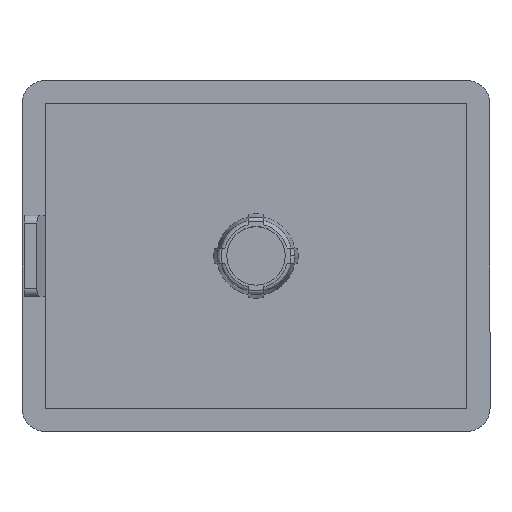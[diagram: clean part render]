
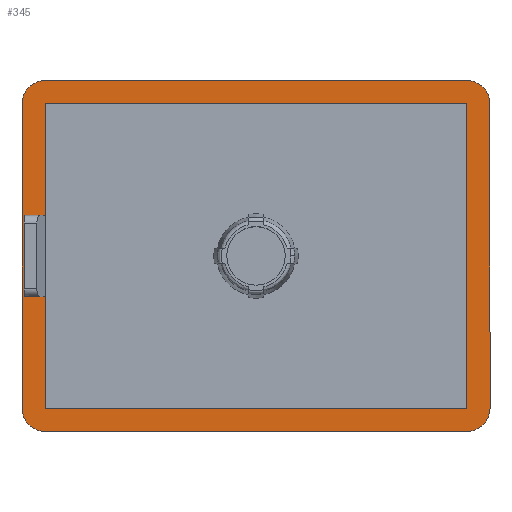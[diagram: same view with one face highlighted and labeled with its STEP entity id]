
A CAD part, top view. The second image highlights one B-rep face of the part: STEP entity #345.
In plain terms, the highlighted planar face has unit normal (0, 0, 1).
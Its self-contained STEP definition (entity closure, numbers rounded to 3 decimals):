
#12 = CARTESIAN_POINT ( 'NONE',  ( -27., -19.5, 4. ) ) ;
#20 = VERTEX_POINT ( 'NONE', #2044 ) ;
#29 = DIRECTION ( 'NONE',  ( 1., 0., 0. ) ) ;
#72 = CARTESIAN_POINT ( 'NONE',  ( -27., 19.5, 4. ) ) ;
#84 = CARTESIAN_POINT ( 'NONE',  ( -29.7, 5.2, 4. ) ) ;
#88 = ORIENTED_EDGE ( 'NONE', *, *, #2234, .T. ) ;
#98 = VERTEX_POINT ( 'NONE', #942 ) ;
#99 = CARTESIAN_POINT ( 'NONE',  ( 30., 19.5, 4. ) ) ;
#135 = CARTESIAN_POINT ( 'NONE',  ( -27., 5.2, 4. ) ) ;
#139 = CARTESIAN_POINT ( 'NONE',  ( 30., 19.5, 4. ) ) ;
#201 = CIRCLE ( 'NONE', #1364, 3. ) ;
#209 = CARTESIAN_POINT ( 'NONE',  ( -27., 22.5, 4. ) ) ;
#239 = DIRECTION ( 'NONE',  ( 0., 0., 1. ) ) ;
#248 = DIRECTION ( 'NONE',  ( -1., 0., 0. ) ) ;
#250 = CARTESIAN_POINT ( 'NONE',  ( -27., -19.5, 4. ) ) ;
#269 = EDGE_CURVE ( 'NONE', #1723, #878, #1244, .T. ) ;
#287 = LINE ( 'NONE', #621, #977 ) ;
#308 = FACE_OUTER_BOUND ( 'NONE', #1076, .T. ) ;
#313 = VERTEX_POINT ( 'NONE', #1977 ) ;
#345 = ADVANCED_FACE ( 'NONE', ( #1818, #308 ), #2162, .T. ) ;
#350 = ORIENTED_EDGE ( 'NONE', *, *, #825, .T. ) ;
#358 = VECTOR ( 'NONE', #696, 1000. ) ;
#411 = EDGE_CURVE ( 'NONE', #1466, #1446, #2041, .T. ) ;
#451 = LINE ( 'NONE', #1235, #1563 ) ;
#479 = LINE ( 'NONE', #1759, #1330 ) ;
#494 = LINE ( 'NONE', #139, #2285 ) ;
#519 = EDGE_CURVE ( 'NONE', #1025, #313, #1333, .T. ) ;
#565 = CARTESIAN_POINT ( 'NONE',  ( 30., -5.2, 4. ) ) ;
#583 = VERTEX_POINT ( 'NONE', #2271 ) ;
#595 = EDGE_CURVE ( 'NONE', #598, #1025, #1037, .T. ) ;
#598 = VERTEX_POINT ( 'NONE', #1440 ) ;
#621 = CARTESIAN_POINT ( 'NONE',  ( -29.7, 22.5, 4. ) ) ;
#623 = EDGE_CURVE ( 'NONE', #598, #1446, #712, .T. ) ;
#696 = DIRECTION ( 'NONE',  ( 0., 1., 0. ) ) ;
#712 = CIRCLE ( 'NONE', #1838, 3. ) ;
#722 = DIRECTION ( 'NONE',  ( 0., 0., 1. ) ) ;
#731 = VERTEX_POINT ( 'NONE', #12 ) ;
#763 = LINE ( 'NONE', #565, #2289 ) ;
#779 = ORIENTED_EDGE ( 'NONE', *, *, #1004, .T. ) ;
#786 = DIRECTION ( 'NONE',  ( 0., 0., 1. ) ) ;
#810 = LINE ( 'NONE', #2057, #1447 ) ;
#823 = EDGE_CURVE ( 'NONE', #20, #1466, #2144, .T. ) ;
#825 = EDGE_CURVE ( 'NONE', #583, #1854, #201, .T. ) ;
#847 = CARTESIAN_POINT ( 'NONE',  ( 27., -22.5, 4. ) ) ;
#878 = VERTEX_POINT ( 'NONE', #2235 ) ;
#909 = CARTESIAN_POINT ( 'NONE',  ( 30., 22.5, 4. ) ) ;
#942 = CARTESIAN_POINT ( 'NONE',  ( -27., -5.2, 4. ) ) ;
#950 = CARTESIAN_POINT ( 'NONE',  ( -30., 22.5, 4. ) ) ;
#953 = LINE ( 'NONE', #966, #1041 ) ;
#966 = CARTESIAN_POINT ( 'NONE',  ( 30., 5.2, 4. ) ) ;
#973 = ORIENTED_EDGE ( 'NONE', *, *, #519, .T. ) ;
#977 = VECTOR ( 'NONE', #1370, 1000. ) ;
#990 = CARTESIAN_POINT ( 'NONE',  ( -27., 19.5, 4. ) ) ;
#1004 = EDGE_CURVE ( 'NONE', #1473, #1723, #494, .T. ) ;
#1008 = VERTEX_POINT ( 'NONE', #84 ) ;
#1025 = VERTEX_POINT ( 'NONE', #99 ) ;
#1037 = LINE ( 'NONE', #1226, #358 ) ;
#1041 = VECTOR ( 'NONE', #29, 1000. ) ;
#1076 = EDGE_LOOP ( 'NONE', ( #1755, #973, #1696, #350, #88, #1344, #1367, #1188 ) ) ;
#1107 = ORIENTED_EDGE ( 'NONE', *, *, #1341, .T. ) ;
#1182 = EDGE_CURVE ( 'NONE', #98, #2003, #763, .T. ) ;
#1188 = ORIENTED_EDGE ( 'NONE', *, *, #623, .F. ) ;
#1205 = DIRECTION ( 'NONE',  ( -1., 0., 0. ) ) ;
#1226 = CARTESIAN_POINT ( 'NONE',  ( 30., 22.5, 4. ) ) ;
#1235 = CARTESIAN_POINT ( 'NONE',  ( -30., 22.5, 4. ) ) ;
#1244 = LINE ( 'NONE', #2008, #1814 ) ;
#1248 = EDGE_CURVE ( 'NONE', #878, #731, #810, .T. ) ;
#1286 = EDGE_CURVE ( 'NONE', #731, #98, #479, .T. ) ;
#1307 = DIRECTION ( 'NONE',  ( 1., 0., 0. ) ) ;
#1312 = VECTOR ( 'NONE', #2052, 1000. ) ;
#1328 = CARTESIAN_POINT ( 'NONE',  ( -30., -22.5, 4. ) ) ;
#1329 = LINE ( 'NONE', #950, #2010 ) ;
#1330 = VECTOR ( 'NONE', #1943, 1000. ) ;
#1333 = CIRCLE ( 'NONE', #2290, 3. ) ;
#1339 = LINE ( 'NONE', #209, #1312 ) ;
#1341 = EDGE_CURVE ( 'NONE', #2003, #1008, #287, .T. ) ;
#1344 = ORIENTED_EDGE ( 'NONE', *, *, #823, .T. ) ;
#1348 = DIRECTION ( 'NONE',  ( -1., 0., 0. ) ) ;
#1352 = CARTESIAN_POINT ( 'NONE',  ( -30., 19.5, 4. ) ) ;
#1364 = AXIS2_PLACEMENT_3D ( 'NONE', #72, #239, #1373 ) ;
#1367 = ORIENTED_EDGE ( 'NONE', *, *, #411, .T. ) ;
#1370 = DIRECTION ( 'NONE',  ( 0., 1., 0. ) ) ;
#1373 = DIRECTION ( 'NONE',  ( -1., 0., 0. ) ) ;
#1392 = ORIENTED_EDGE ( 'NONE', *, *, #1286, .T. ) ;
#1428 = DIRECTION ( 'NONE',  ( 0., 0., -1. ) ) ;
#1440 = CARTESIAN_POINT ( 'NONE',  ( 30., -19.5, 4. ) ) ;
#1446 = VERTEX_POINT ( 'NONE', #847 ) ;
#1447 = VECTOR ( 'NONE', #1718, 1000. ) ;
#1463 = DIRECTION ( 'NONE',  ( 1., 0., 0. ) ) ;
#1466 = VERTEX_POINT ( 'NONE', #2296 ) ;
#1473 = VERTEX_POINT ( 'NONE', #990 ) ;
#1501 = ORIENTED_EDGE ( 'NONE', *, *, #1840, .T. ) ;
#1517 = EDGE_CURVE ( 'NONE', #313, #583, #451, .T. ) ;
#1525 = AXIS2_PLACEMENT_3D ( 'NONE', #250, #2245, #1720 ) ;
#1563 = VECTOR ( 'NONE', #1205, 1000. ) ;
#1573 = ORIENTED_EDGE ( 'NONE', *, *, #2132, .T. ) ;
#1603 = VERTEX_POINT ( 'NONE', #135 ) ;
#1624 = CARTESIAN_POINT ( 'NONE',  ( -29.7, -5.2, 4. ) ) ;
#1634 = EDGE_LOOP ( 'NONE', ( #2059, #2141, #1392, #2236, #1107, #1501, #1573, #779 ) ) ;
#1691 = DIRECTION ( 'NONE',  ( 0., -1., 0. ) ) ;
#1696 = ORIENTED_EDGE ( 'NONE', *, *, #1517, .T. ) ;
#1718 = DIRECTION ( 'NONE',  ( -1., 0., 0. ) ) ;
#1720 = DIRECTION ( 'NONE',  ( -1., 0., 0. ) ) ;
#1723 = VERTEX_POINT ( 'NONE', #1902 ) ;
#1750 = DIRECTION ( 'NONE',  ( 1., 0., 0. ) ) ;
#1755 = ORIENTED_EDGE ( 'NONE', *, *, #595, .T. ) ;
#1759 = CARTESIAN_POINT ( 'NONE',  ( -27., 22.5, 4. ) ) ;
#1814 = VECTOR ( 'NONE', #1844, 1000. ) ;
#1818 = FACE_BOUND ( 'NONE', #1634, .T. ) ;
#1838 = AXIS2_PLACEMENT_3D ( 'NONE', #2159, #1428, #1998 ) ;
#1840 = EDGE_CURVE ( 'NONE', #1008, #1603, #953, .T. ) ;
#1844 = DIRECTION ( 'NONE',  ( 0., -1., 0. ) ) ;
#1854 = VERTEX_POINT ( 'NONE', #1352 ) ;
#1902 = CARTESIAN_POINT ( 'NONE',  ( 27., 19.5, 4. ) ) ;
#1943 = DIRECTION ( 'NONE',  ( 0., 1., 0. ) ) ;
#1977 = CARTESIAN_POINT ( 'NONE',  ( 27., 22.5, 4. ) ) ;
#1998 = DIRECTION ( 'NONE',  ( -1., 0., 0. ) ) ;
#2003 = VERTEX_POINT ( 'NONE', #1624 ) ;
#2008 = CARTESIAN_POINT ( 'NONE',  ( 27., 22.5, 4. ) ) ;
#2010 = VECTOR ( 'NONE', #1691, 1000. ) ;
#2041 = LINE ( 'NONE', #1328, #2138 ) ;
#2044 = CARTESIAN_POINT ( 'NONE',  ( -30., -19.5, 4. ) ) ;
#2052 = DIRECTION ( 'NONE',  ( 0., 1., 0. ) ) ;
#2057 = CARTESIAN_POINT ( 'NONE',  ( 30., -19.5, 4. ) ) ;
#2059 = ORIENTED_EDGE ( 'NONE', *, *, #269, .T. ) ;
#2132 = EDGE_CURVE ( 'NONE', #1603, #1473, #1339, .T. ) ;
#2138 = VECTOR ( 'NONE', #1307, 1000. ) ;
#2141 = ORIENTED_EDGE ( 'NONE', *, *, #1248, .T. ) ;
#2144 = CIRCLE ( 'NONE', #1525, 3. ) ;
#2159 = CARTESIAN_POINT ( 'NONE',  ( 27., -19.5, 4. ) ) ;
#2162 = PLANE ( 'NONE',  #2355 ) ;
#2234 = EDGE_CURVE ( 'NONE', #1854, #20, #1329, .T. ) ;
#2235 = CARTESIAN_POINT ( 'NONE',  ( 27., -19.5, 4. ) ) ;
#2236 = ORIENTED_EDGE ( 'NONE', *, *, #1182, .T. ) ;
#2245 = DIRECTION ( 'NONE',  ( 0., 0., 1. ) ) ;
#2258 = CARTESIAN_POINT ( 'NONE',  ( 27., 19.5, 4. ) ) ;
#2271 = CARTESIAN_POINT ( 'NONE',  ( -27., 22.5, 4. ) ) ;
#2285 = VECTOR ( 'NONE', #1750, 1000. ) ;
#2289 = VECTOR ( 'NONE', #248, 1000. ) ;
#2290 = AXIS2_PLACEMENT_3D ( 'NONE', #2258, #786, #1348 ) ;
#2296 = CARTESIAN_POINT ( 'NONE',  ( -27., -22.5, 4. ) ) ;
#2355 = AXIS2_PLACEMENT_3D ( 'NONE', #909, #722, #1463 ) ;
